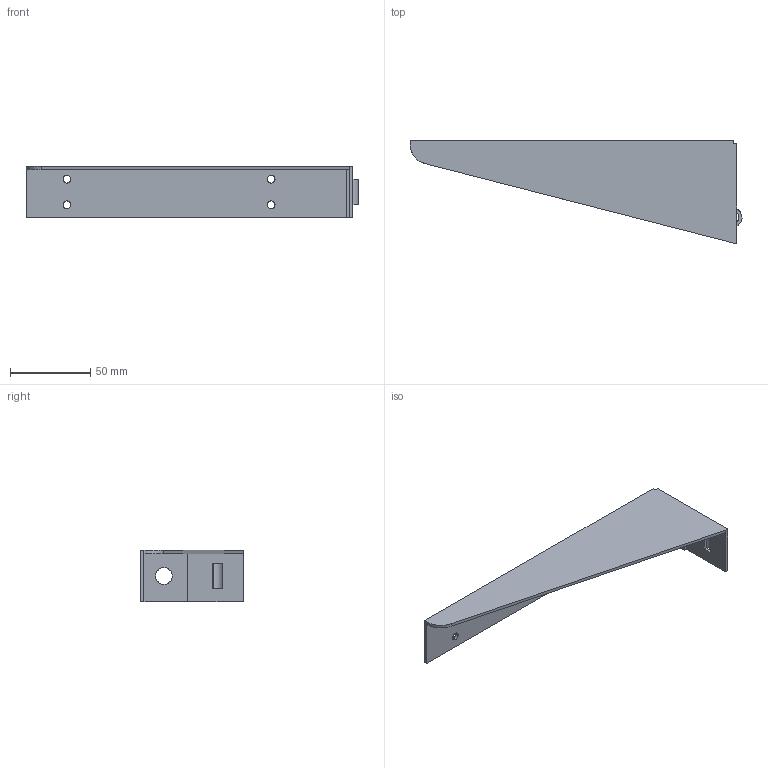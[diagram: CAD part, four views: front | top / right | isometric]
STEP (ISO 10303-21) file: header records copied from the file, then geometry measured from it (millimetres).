
FILE_DESCRIPTION(('TurboCAD Mac Pro'),'Build 980');
FILE_NAME('A2492R.stp',' ',(''),(''),'ACIS Interop','IMSI','TurboCAD Mac Pro BY IMSI, INCORPORATED');
FILE_SCHEMA(('automotive_design'));
Length unit declared in the file: inch
Products named in the file (1): 1
Bounding box: 206.37 x 63.5 x 31.75 mm (x, y, z)
Volume: 30788.4 mm3; surface area: 32286.9 mm2
Topology: 1 solids, 1 shells, 46 faces, 129 edges, 84 vertices
Faces by surface type: bspline 26, plane 20
Entity records: 2039 total; most frequent: CARTESIAN_POINT 606, ORIENTED_EDGE 258, EDGE_CURVE 129, DIRECTION 127, VERTEX_POINT 84, LINE 77, VECTOR 77, EDGE_LOOP 59
